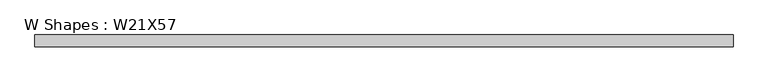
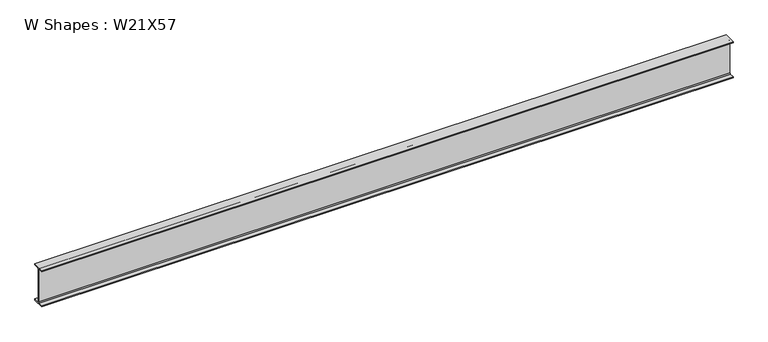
"""IFC4 building model written with IfcOpenShell, lengths in millimetres: beam geometry, W Shapes : W21X57."""

from ifc_helpers import new_model, si_unit, point, frame, frame_2d, origin, place, context, project, spatial, polyline, circle_curve, trimmed, segment, composite_curve, outline, extrude, source, transform, mapped, element, save


def w_shapes_w21x57_3eaecdaa(model_context):
    return source(origin(), model_context, "Body", "SweptSolid", [
        extrude(outline(composite_curve([segment(polyline([(83.312, -251.46), (83.312, -267.97), (-83.312, -267.97), (-83.312, -251.46), (-17.907, -251.46)]), True, "CONTINUOUS"), segment(trimmed(circle_curve(frame_2d((-17.907, -238.76)), 12.7), [point((-17.907, -251.46))], [point((-5.207, -238.76))], True, "CARTESIAN"), True, "CONTINUOUS"), segment(polyline([(-5.207, -238.76), (-5.207, 238.76)]), True, "CONTINUOUS"), segment(trimmed(circle_curve(frame_2d((-17.907, 238.76)), 12.7), [point((-5.207, 238.76))], [point((-17.907, 251.46))], True, "CARTESIAN"), True, "CONTINUOUS"), segment(polyline([(-17.907, 251.46), (-83.312, 251.46), (-83.312, 267.97), (83.312, 267.97), (83.312, 251.46), (17.907, 251.46)]), True, "CONTINUOUS"), segment(trimmed(circle_curve(frame_2d((17.907, 238.76)), 12.7), [point((17.907, 251.46))], [point((5.207, 238.76))], True, "CARTESIAN"), True, "CONTINUOUS"), segment(polyline([(5.207, 238.76), (5.207, -238.76)]), True, "CONTINUOUS"), segment(trimmed(circle_curve(frame_2d((17.907, -238.76)), 12.7), [point((5.207, -238.76))], [point((17.907, -251.46))], True, "CARTESIAN"), True, "CONTINUOUS"), segment(polyline([(17.907, -251.46), (83.312, -251.46)]), True, "CONTINUOUS")], self_intersect=False)), frame((-4845.05, 0.0, 0.0), z_axis=(1.0, 0.0, 0.0), x_axis=(0.0, 1.0, 0.0)), (0.0, 0.0, 1.0), 9690.1),
    ])


if __name__ == "__main__":
    model = new_model("IFC4")
    model_context = context("Model", 3, world=origin())
    ifc_project = project(units=[si_unit("LENGTHUNIT", "METRE", prefix="MILLI")], contexts=[model_context])
    site = spatial("IfcSite", under=ifc_project)
    building = spatial("IfcBuilding", under=site)
    placement = place(None, origin())
    w_shapes_w21x57_shape = w_shapes_w21x57_3eaecdaa(model_context)
    element("IfcBeam", 1, ObjectType="W Shapes : W21X57", at=placement, inside=building, context=model_context, shape_type="MappedRepresentation", body=[
        mapped(w_shapes_w21x57_shape, transform((0.0, 0.0, 0.0), x_axis=(1.0, 0.0, 0.0), y_axis=(0.0, 1.0, 0.0), z_axis=(0.0, 0.0, 1.0))),
    ])
    save(model, "model.ifc")
